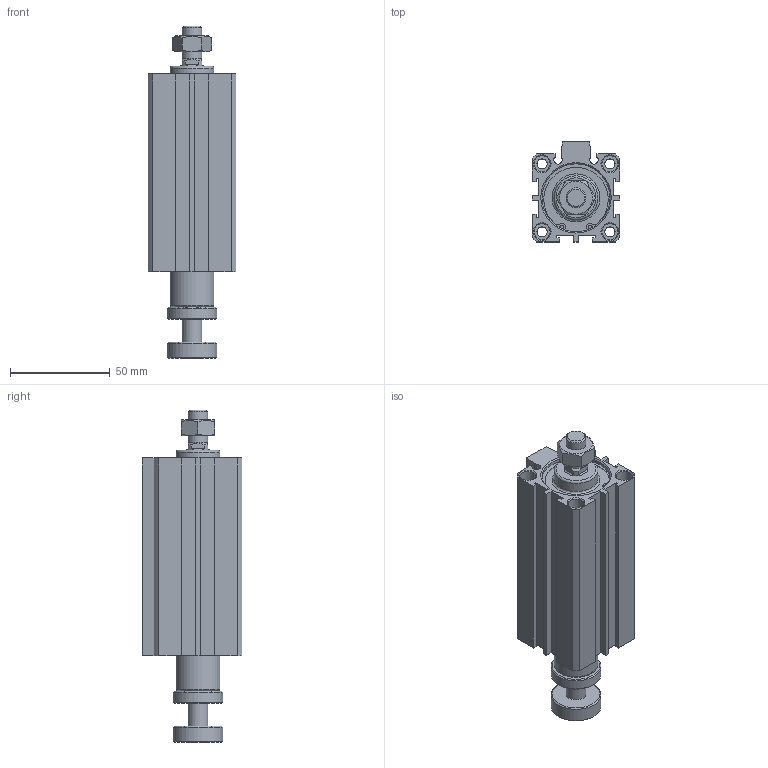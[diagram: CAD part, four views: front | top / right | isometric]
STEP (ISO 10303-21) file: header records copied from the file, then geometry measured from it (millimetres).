
FILE_DESCRIPTION((''),'2;1');
FILE_NAME('I:\3D電子目錄\氣缸\JDAR\JDAR-B\JDAR32-B\JDAR32x75-B.stp','2007-03-14T13:55:21',('662F206'),(''),'Autodesk Inventor 11','Autodesk Inventor 11','');
FILE_SCHEMA(('AUTOMOTIVE_DESIGN { 1 0 10303 214 1 1 1 1 }'));
Length unit declared in the file: millimetre
Products named in the file (3): JDAR32-B; R 形環 35
Assembly tree (3 placements, depth 2):
  JDAR32-B
    JDAR32-B
    R 形環 35  x2
Bounding box: 44 x 50 x 166.1 mm (x, y, z)
Volume: 185651.4 mm3; surface area: 44744.2 mm2
Topology: 3 solids, 3 shells, 180 faces, 421 edges, 273 vertices
Faces by surface type: plane 98, cylinder 53, cone 25, bspline 2, torus 2
Full cylindrical faces by diameter (mm): 1.9 x4, 2.2 x2, 5.1 x4, 8 x8, 10 x3, 22 x2, 25 x2, 34 x4, 36 x2
Entity records: 4639 total; most frequent: CARTESIAN_POINT 882, DIRECTION 784, ORIENTED_EDGE 664, EDGE_CURVE 332, AXIS2_PLACEMENT_3D 300, EDGE_LOOP 260, VERTEX_POINT 248, VECTOR 184
